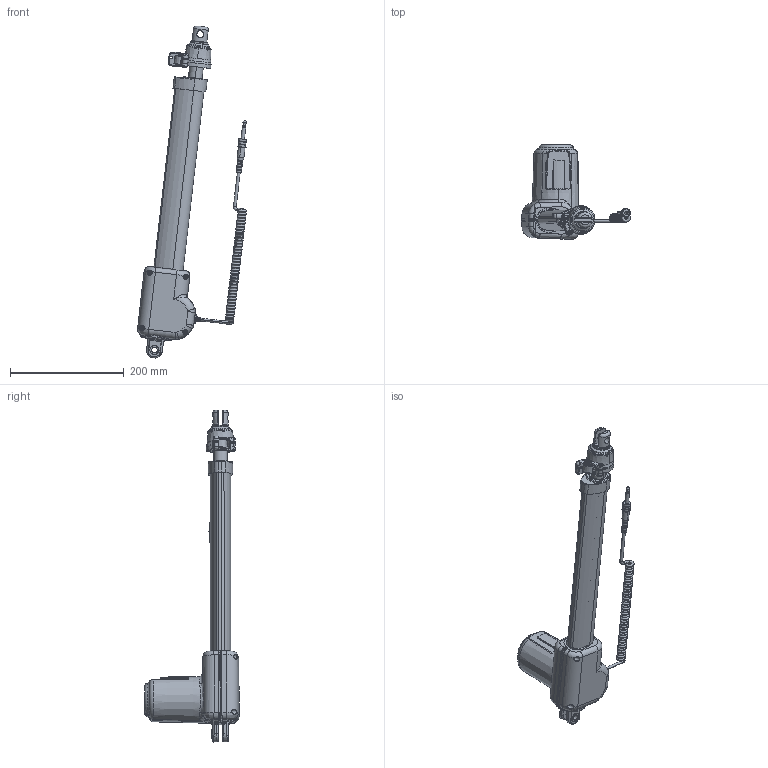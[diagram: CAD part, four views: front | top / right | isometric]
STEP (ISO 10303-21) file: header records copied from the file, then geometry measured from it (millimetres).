
FILE_DESCRIPTION((''),'2;1');
FILE_NAME('ASM0001_ASM','2015-03-19T',('user'),(''),'PRO/ENGINEER BY PARAMETRIC TECHNOLOGY CORPORATION, 2008090','PRO/ENGINEER BY PARAMETRIC TECHNOLOGY CORPORATION, 2008090','');
FILE_SCHEMA(('CONFIG_CONTROL_DESIGN'));
Products named in the file (3): 2; 1E_ASM; ASM0001_ASM
Assembly tree (2 placements, depth 2):
  ASM0001_ASM
    2
    1E_ASM
Bounding box: 192.08 x 166.84 x 584.94 mm (x, y, z)
Volume: 107060.8 mm3; surface area: 465569.4 mm2
Topology: 13 solids, 22 shells, 2961 faces, 8367 edges, 5425 vertices
Faces by surface type: cylinder 1146, plane 1023, bspline 355, torus 294, cone 130, sphere 8, extrusion 5
Entity records: 138878 total; most frequent: CARTESIAN_POINT 63847, ORIENTED_EDGE 16680, DIRECTION 15019, EDGE_CURVE 8350, AXIS2_PLACEMENT_3D 5911, VERTEX_POINT 5421, CIRCLE 3301, VECTOR 3197
